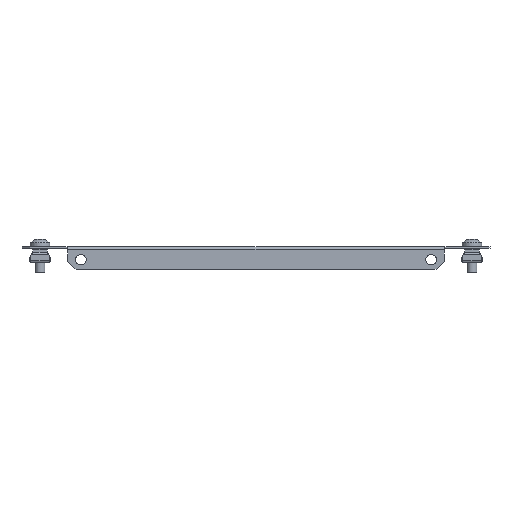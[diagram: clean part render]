
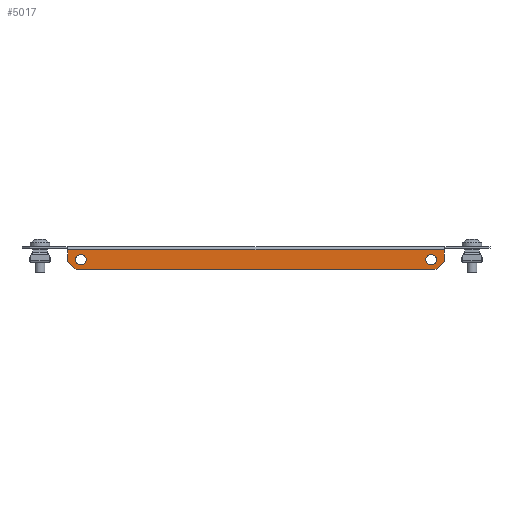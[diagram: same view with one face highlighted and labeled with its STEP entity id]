
A CAD part, front view. The second image highlights one B-rep face of the part: STEP entity #5017.
In plain terms, the highlighted planar face has unit normal (0, -1, 0).
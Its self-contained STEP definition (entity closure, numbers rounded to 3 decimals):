
#5 = LINE ( 'NONE', #5581, #266 ) ;
#117 = DIRECTION ( 'NONE',  ( 0., 0., -1. ) ) ;
#143 = DIRECTION ( 'NONE',  ( 0., -1., 0. ) ) ;
#233 = CARTESIAN_POINT ( 'NONE',  ( -115., -24.5, -2. ) ) ;
#266 = VECTOR ( 'NONE', #117, 1000. ) ;
#311 = ORIENTED_EDGE ( 'NONE', *, *, #5699, .T. ) ;
#369 = CARTESIAN_POINT ( 'NONE',  ( -107., -24.5, -4.75 ) ) ;
#392 = ORIENTED_EDGE ( 'NONE', *, *, #2968, .F. ) ;
#404 = AXIS2_PLACEMENT_3D ( 'NONE', #3524, #2489, #6217 ) ;
#441 = ORIENTED_EDGE ( 'NONE', *, *, #4287, .T. ) ;
#572 = LINE ( 'NONE', #1630, #6627 ) ;
#613 = VECTOR ( 'NONE', #1499, 1000. ) ;
#656 = VECTOR ( 'NONE', #2801, 1000. ) ;
#674 = CARTESIAN_POINT ( 'NONE',  ( -115., -24.5, -9. ) ) ;
#744 = VECTOR ( 'NONE', #1316, 1000. ) ;
#779 = FACE_OUTER_BOUND ( 'NONE', #5850, .T. ) ;
#782 = VERTEX_POINT ( 'NONE', #2738 ) ;
#905 = VERTEX_POINT ( 'NONE', #369 ) ;
#974 = DIRECTION ( 'NONE',  ( 0., 1., 0. ) ) ;
#1075 = CARTESIAN_POINT ( 'NONE',  ( 115., -24.5, 0. ) ) ;
#1299 = LINE ( 'NONE', #4434, #656 ) ;
#1316 = DIRECTION ( 'NONE',  ( -1., 0., 0. ) ) ;
#1439 = EDGE_CURVE ( 'NONE', #5347, #2936, #3772, .T. ) ;
#1473 = EDGE_CURVE ( 'NONE', #6933, #6330, #5, .T. ) ;
#1499 = DIRECTION ( 'NONE',  ( 0., 0., 1. ) ) ;
#1533 = ORIENTED_EDGE ( 'NONE', *, *, #6417, .T. ) ;
#1630 = CARTESIAN_POINT ( 'NONE',  ( -62., -24.5, -62. ) ) ;
#1696 = CARTESIAN_POINT ( 'NONE',  ( 0., -24.5, -14. ) ) ;
#1878 = CARTESIAN_POINT ( 'NONE',  ( 0., -24.5, -2. ) ) ;
#1924 = EDGE_CURVE ( 'NONE', #6330, #782, #572, .T. ) ;
#2233 = LINE ( 'NONE', #1696, #4788 ) ;
#2473 = CARTESIAN_POINT ( 'NONE',  ( 110., -24.5, -14. ) ) ;
#2489 = DIRECTION ( 'NONE',  ( 0., -1., 0. ) ) ;
#2541 = ORIENTED_EDGE ( 'NONE', *, *, #1924, .T. ) ;
#2613 = CARTESIAN_POINT ( 'NONE',  ( -107., -24.5, -8. ) ) ;
#2738 = CARTESIAN_POINT ( 'NONE',  ( -110., -24.5, -14. ) ) ;
#2739 = DIRECTION ( 'NONE',  ( 0.707, 0., -0.707 ) ) ;
#2801 = DIRECTION ( 'NONE',  ( 0.707, 0., 0.707 ) ) ;
#2852 = CARTESIAN_POINT ( 'NONE',  ( 0., -24.5, 0. ) ) ;
#2936 = VERTEX_POINT ( 'NONE', #4700 ) ;
#2951 = FACE_BOUND ( 'NONE', #3131, .T. ) ;
#2968 = EDGE_CURVE ( 'NONE', #6255, #6255, #5283, .T. ) ;
#3131 = EDGE_LOOP ( 'NONE', ( #441 ) ) ;
#3181 = ORIENTED_EDGE ( 'NONE', *, *, #3413, .T. ) ;
#3413 = EDGE_CURVE ( 'NONE', #2936, #6933, #4555, .T. ) ;
#3524 = CARTESIAN_POINT ( 'NONE',  ( 107., -24.5, -8. ) ) ;
#3570 = CARTESIAN_POINT ( 'NONE',  ( 107., -24.5, -4.75 ) ) ;
#3772 = LINE ( 'NONE', #1075, #613 ) ;
#3866 = DIRECTION ( 'NONE',  ( 1., 0., 0. ) ) ;
#4287 = EDGE_CURVE ( 'NONE', #905, #905, #6025, .T. ) ;
#4434 = CARTESIAN_POINT ( 'NONE',  ( 62., -24.5, -62. ) ) ;
#4554 = DIRECTION ( 'NONE',  ( 0., 0., 1. ) ) ;
#4555 = LINE ( 'NONE', #1878, #744 ) ;
#4622 = FACE_BOUND ( 'NONE', #4644, .T. ) ;
#4644 = EDGE_LOOP ( 'NONE', ( #392 ) ) ;
#4700 = CARTESIAN_POINT ( 'NONE',  ( 115., -24.5, -2. ) ) ;
#4755 = DIRECTION ( 'NONE',  ( 0., 0., 1. ) ) ;
#4788 = VECTOR ( 'NONE', #3866, 1000. ) ;
#4846 = ORIENTED_EDGE ( 'NONE', *, *, #1473, .T. ) ;
#5003 = ORIENTED_EDGE ( 'NONE', *, *, #1439, .T. ) ;
#5017 = ADVANCED_FACE ( 'NONE', ( #4622, #2951, #779 ), #6680, .T. ) ;
#5283 = CIRCLE ( 'NONE', #404, 3.25 ) ;
#5347 = VERTEX_POINT ( 'NONE', #6732 ) ;
#5581 = CARTESIAN_POINT ( 'NONE',  ( -115., -24.5, 0. ) ) ;
#5699 = EDGE_CURVE ( 'NONE', #6670, #5347, #1299, .T. ) ;
#5850 = EDGE_LOOP ( 'NONE', ( #1533, #311, #5003, #3181, #4846, #2541 ) ) ;
#6025 = CIRCLE ( 'NONE', #6711, 3.25 ) ;
#6217 = DIRECTION ( 'NONE',  ( 0., 0., 1. ) ) ;
#6255 = VERTEX_POINT ( 'NONE', #3570 ) ;
#6330 = VERTEX_POINT ( 'NONE', #674 ) ;
#6417 = EDGE_CURVE ( 'NONE', #782, #6670, #2233, .T. ) ;
#6516 = AXIS2_PLACEMENT_3D ( 'NONE', #2852, #143, #4554 ) ;
#6627 = VECTOR ( 'NONE', #2739, 1000. ) ;
#6670 = VERTEX_POINT ( 'NONE', #2473 ) ;
#6680 = PLANE ( 'NONE',  #6516 ) ;
#6711 = AXIS2_PLACEMENT_3D ( 'NONE', #2613, #974, #4755 ) ;
#6732 = CARTESIAN_POINT ( 'NONE',  ( 115., -24.5, -9. ) ) ;
#6933 = VERTEX_POINT ( 'NONE', #233 ) ;
